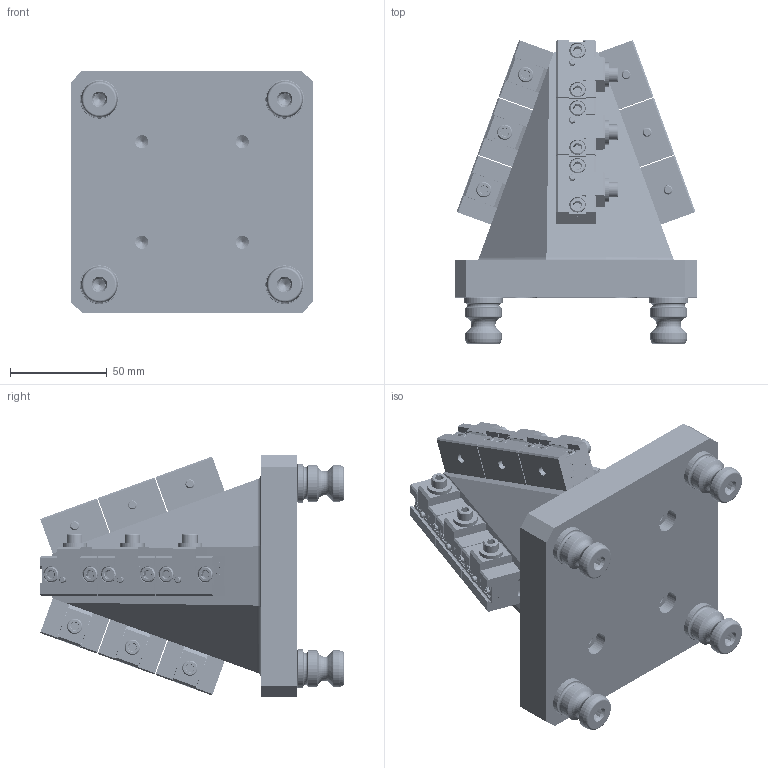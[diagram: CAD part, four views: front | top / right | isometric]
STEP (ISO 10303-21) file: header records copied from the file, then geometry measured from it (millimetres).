
FILE_DESCRIPTION (( 'STEP AP214' ), '1' );
FILE_NAME ('R96-P12D05125.STEP', '2019-05-12T19:42:46', ( '' ), ( '' ), 'SwSTEP 2.0', 'SolidWorks 2018', '' );
FILE_SCHEMA (( 'AUTOMOTIVE_DESIGN' ));
Length unit declared in the file: millimetre
Products named in the file (14): PS20F; 39874.CPSS_91390A162; PS20F-1_HARD TURN; D05125; 73040_HW.73040; 73044_HW.73044; HW.0236X0256.CS; 0.125X0.250_DEFAULT; 0.125X0.375_DEFAULT; HW.0203X0500.FW_DEFAULT; CLW10_CLW10; D05125-1_D051251WM-1; P12D05125; R96-P12D05125
Assembly tree (29 placements, depth 3):
  R96-P12D05125
    P12D05125
    D05125  x12
      D05125-1_D051251WM-1
      CLW10_CLW10
      HW.0203X0500.FW_DEFAULT
      0.125X0.375_DEFAULT
      0.125X0.250_DEFAULT
      HW.0236X0256.CS
      73044_HW.73044
      73040_HW.73040
    PS20F  x4
      PS20F-1_HARD TURN
      39874.CPSS_91390A162
Bounding box: 125.73 x 157.28 x 125.73 mm (x, y, z)
Volume: 840974.4 mm3; surface area: 193436 mm2
Topology: 129 solids, 129 shells, 15540 faces, 41302 edges, 27104 vertices
Faces by surface type: plane 6436, cylinder 4898, bspline 3276, cone 826, torus 104
Entity records: 78328 total; most frequent: CARTESIAN_POINT 32425, ORIENTED_EDGE 8508, DIRECTION 6773, EDGE_CURVE 4254, VERTEX_POINT 2785, VECTOR 2269, LINE 2269, AXIS2_PLACEMENT_3D 2252
